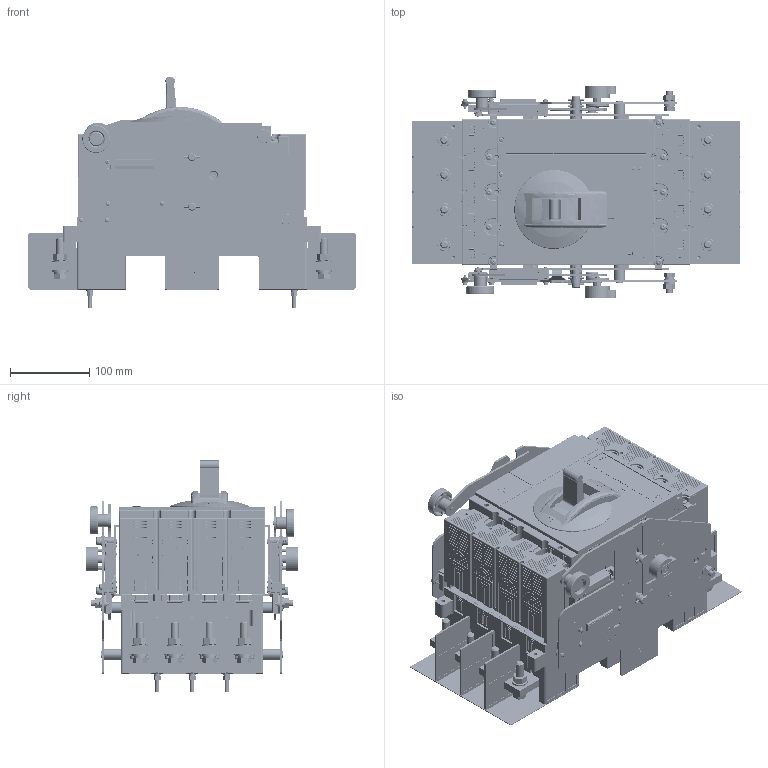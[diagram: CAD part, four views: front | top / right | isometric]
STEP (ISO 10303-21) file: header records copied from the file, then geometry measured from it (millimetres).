
FILE_DESCRIPTION(/* description */ (''),/* implementation_level */ '2;1');
FILE_NAME(/* name */ 'CM5Z-630四极抽出式板前接线.stp',/* time_stamp */ '2022-04-20T09:44:01+08:00',/* author */ (''),/* organization */ (''),/* preprocessor_version */ 'ST-DEVELOPER v16.7',/* originating_system */ 'SIEMENS PLM Software NX 12.0',/* authorisation */ '');
FILE_SCHEMA (('AUTOMOTIVE_DESIGN { 1 0 10303 214 3 1 1 1 }'));
Products named in the file (1): _model1
Bounding box: 413.05 x 267.23 x 291.8 mm (x, y, z)
Volume: 7246625.8 mm3; surface area: 1574681.5 mm2
Topology: 11 solids, 111 shells, 16946 faces, 46514 edges, 29765 vertices
Faces by surface type: plane 10388, cylinder 4705, cone 804, torus 472, sphere 273, extrusion 178, bspline 126
Full cylindrical faces by diameter (mm): 1 x2, 1.4 x2, 1.5 x2, 2.1 x4, 2.3 x4, 2.4 x4, 2.5 x32, 2.55 x1, 2.6 x5, 2.7 x4, 2.8 x4, 2.9 x3, 3 x50, 3.1 x8, 3.2 x29, 3.3 x26, 3.5 x16, 3.6 x2, 4 x54, 4.1 x1, 4.2 x6, 4.3 x49, 4.5 x40, 4.6 x2, 5 x28, 5.1 x2, 5.188 x6, 5.2 x18, 5.23 x8, 5.3 x6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
Entity records: 543242 total; most frequent: CARTESIAN_POINT 113829, ORIENTED_EDGE 88998, DIRECTION 88142, EDGE_CURVE 44499, VECTOR 30360, LINE 30182, VERTEX_POINT 29097, AXIS2_PLACEMENT_3D 28891
